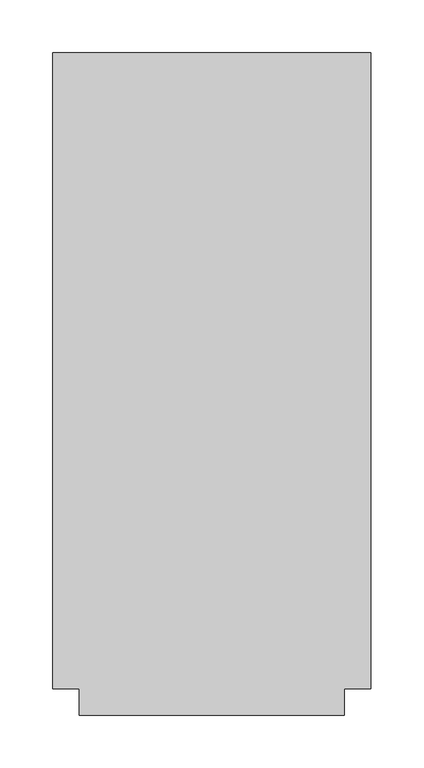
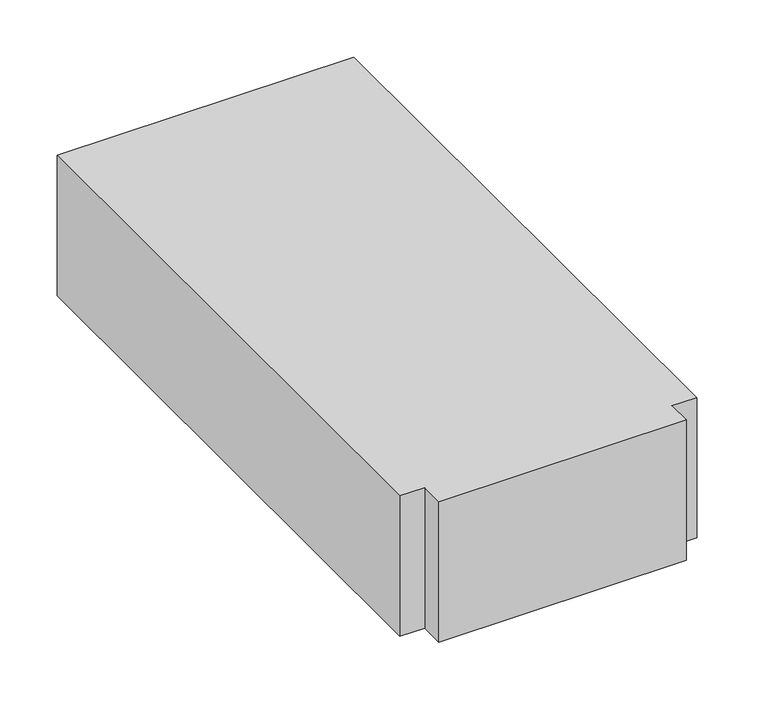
"""IFC4 building model written with IfcOpenShell, lengths in millimetres: duct fitting geometry, M_Te rectangular : Estándar."""

from ifc_helpers import new_model, si_unit, frame, origin, place, context, project, spatial, polyline, outline, extrude, source, transform, mapped, element, save


def duct_fitting_df65a393(model_context):
    return source(origin(), model_context, "Body", "SweptSolid", [
        extrude(outline(polyline([(-150.0, -300.0), (-150.0, 300.0), (150.0, 300.0), (150.0, -300.0), (125.0, -300.0), (125.0, -325.0), (-125.0, -325.0), (-125.0, -300.0), (-150.0, -300.0)])), frame((0.0, 0.0, -75.0), z_axis=(0.0, 0.0, 1.0), x_axis=(1.0, 0.0, 0.0)), (0.0, 0.0, 1.0), 150.0),
    ])


if __name__ == "__main__":
    model = new_model("IFC4")
    model_context = context("Model", 3, world=origin())
    ifc_project = project(units=[si_unit("LENGTHUNIT", "METRE", prefix="MILLI")], contexts=[model_context])
    site = spatial("IfcSite", under=ifc_project)
    building = spatial("IfcBuilding", under=site)
    placement = place(None, origin())
    duct_fitting_shape = duct_fitting_df65a393(model_context)
    element("IfcDuctFitting", 1, ObjectType="M_Te rectangular : Estándar", at=placement, inside=building, context=model_context, shape_type="MappedRepresentation", body=[
        mapped(duct_fitting_shape, transform((0.0, 0.0, 0.0), x_axis=(1.0, 0.0, 0.0), y_axis=(0.0, 1.0, 0.0), z_axis=(0.0, 0.0, 1.0))),
    ])
    save(model, "model.ifc")
